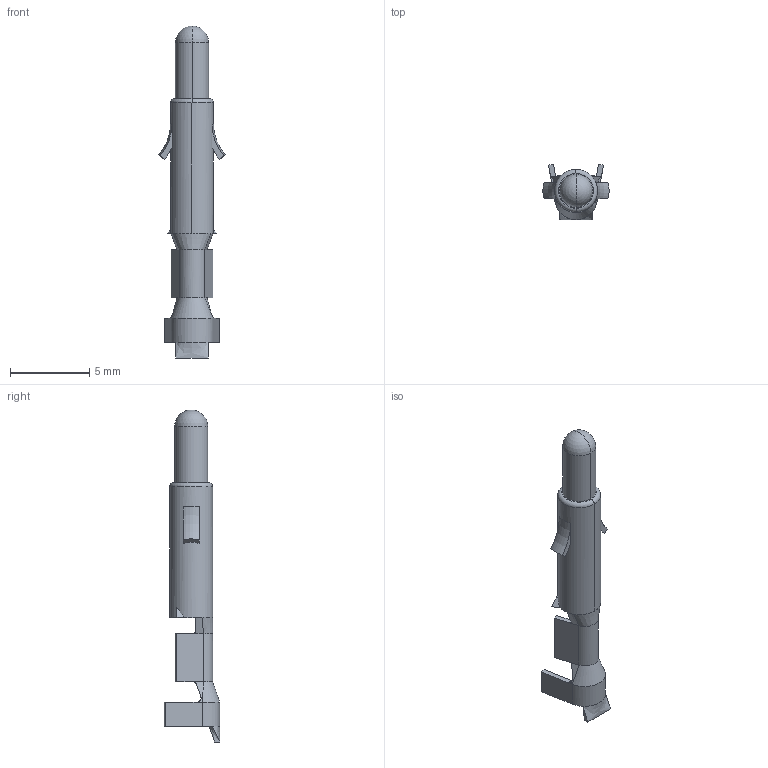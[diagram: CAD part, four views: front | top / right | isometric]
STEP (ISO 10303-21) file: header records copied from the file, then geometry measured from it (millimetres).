
FILE_DESCRIPTION((''),'2;1');
FILE_NAME('C-350690-2','2020-07-03T10:04:57',('workeradm'),('TE Connectivity Ltd.'),'CREO PARAMETRIC BY PTC INC, 2019292','CREO PARAMETRIC BY PTC INC, 2019292','');
FILE_SCHEMA(('AUTOMOTIVE_DESIGN { 1 0 10303 214 1 1 1 1 }'));
Length unit declared in the file: millimetre
Products named in the file (1): C-350690-2
Bounding box: 4.17 x 3.49 x 20.93 mm (x, y, z)
Volume: 72.5 mm3; surface area: 206.4 mm2
Topology: 1 solids, 1 shells, 78 faces, 196 edges, 123 vertices
Faces by surface type: plane 38, bspline 16, cylinder 16, torus 6, sphere 2
Entity records: 3034 total; most frequent: CARTESIAN_POINT 1193, ORIENTED_EDGE 382, DIRECTION 339, EDGE_CURVE 191, VERTEX_POINT 118, AXIS2_PLACEMENT_3D 117, VECTOR 105, LINE 105
